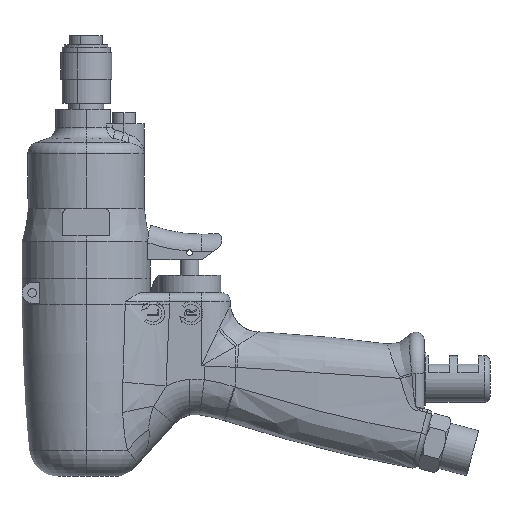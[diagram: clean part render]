
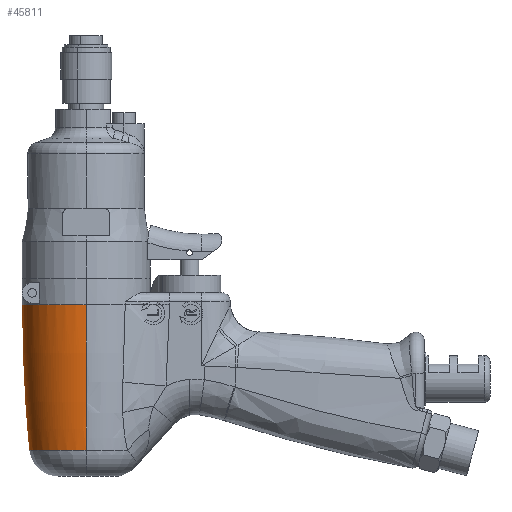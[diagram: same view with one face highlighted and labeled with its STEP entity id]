
A CAD part, left-side view. The second image highlights one B-rep face of the part: STEP entity #45811.
In plain terms, the highlighted toroidal (fillet/blend) face has major radius 478 mm and minor radius 500 mm.
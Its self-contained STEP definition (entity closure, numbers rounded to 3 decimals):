
#21764 = DIRECTION ( 'NONE',  ( 1., 0., 0. ) ) ;
#21765 = DIRECTION ( 'NONE',  ( 0., 0., 1. ) ) ;
#21766 = CARTESIAN_POINT ( 'NONE',  ( 0., 0., -59. ) ) ;
#21767 = AXIS2_PLACEMENT_3D ( 'NONE', #21766, #21765, #21764 ) ;
#21772 = CIRCLE ( 'NONE', #21767, 19.494 ) ;
#21814 = CARTESIAN_POINT ( 'NONE',  ( -19.494, 0., -59. ) ) ;
#21815 = CARTESIAN_POINT ( 'NONE',  ( 19.494, 0., -59. ) ) ;
#21836 = CARTESIAN_POINT ( 'NONE',  ( 19.267, 10.621, -9. ) ) ;
#22003 = CARTESIAN_POINT ( 'NONE',  ( -22., 0., -9. ) ) ;
#22016 = DIRECTION ( 'NONE',  ( 1., 0., 0. ) ) ;
#22028 = CARTESIAN_POINT ( 'NONE',  ( 0., 0., -9. ) ) ;
#22029 = AXIS2_PLACEMENT_3D ( 'NONE', #22028, #22031, #22016 ) ;
#22030 = CIRCLE ( 'NONE', #22029, 22. ) ;
#22031 = DIRECTION ( 'NONE',  ( 0., 0., 1. ) ) ;
#22278 = DIRECTION ( 'NONE',  ( 1., 0., 0. ) ) ;
#22279 = DIRECTION ( 'NONE',  ( 0., 0., 1. ) ) ;
#22280 = AXIS2_PLACEMENT_3D ( 'NONE', #22282, #22279, #22278 ) ;
#22281 = TOROIDAL_SURFACE ( 'NONE', #22280, -478., 500. ) ;
#22282 = CARTESIAN_POINT ( 'NONE',  ( 0., 0., -9. ) ) ;
#22283 = FACE_OUTER_BOUND ( 'NONE', #45799, .T. ) ;
#22284 = CARTESIAN_POINT ( 'NONE',  ( 17.148, 11.305, -47.194 ) ) ;
#22285 = CARTESIAN_POINT ( 'NONE',  ( 18.759, 6.871, -53.921 ) ) ;
#22286 = CARTESIAN_POINT ( 'NONE',  ( 18.645, 7.209, -53.818 ) ) ;
#22287 = CARTESIAN_POINT ( 'NONE',  ( 18.529, 7.535, -53.679 ) ) ;
#22288 = CARTESIAN_POINT ( 'NONE',  ( 18.3, 8.149, -53.348 ) ) ;
#22289 = CARTESIAN_POINT ( 'NONE',  ( 18.187, 8.437, -53.154 ) ) ;
#22290 = CARTESIAN_POINT ( 'NONE',  ( 17.968, 8.981, -52.716 ) ) ;
#22291 = CARTESIAN_POINT ( 'NONE',  ( 17.861, 9.239, -52.469 ) ) ;
#22292 = CARTESIAN_POINT ( 'NONE',  ( 17.663, 9.707, -51.938 ) ) ;
#22293 = CARTESIAN_POINT ( 'NONE',  ( 17.572, 9.92, -51.654 ) ) ;
#22294 = CARTESIAN_POINT ( 'NONE',  ( 17.409, 10.305, -51.049 ) ) ;
#22295 = CARTESIAN_POINT ( 'NONE',  ( 17.337, 10.477, -50.727 ) ) ;
#22296 = CARTESIAN_POINT ( 'NONE',  ( 17.22, 10.771, -50.065 ) ) ;
#22297 = CARTESIAN_POINT ( 'NONE',  ( 17.175, 10.895, -49.723 ) ) ;
#22298 = CARTESIAN_POINT ( 'NONE',  ( 17.114, 11.096, -49.016 ) ) ;
#22299 = CARTESIAN_POINT ( 'NONE',  ( 17.099, 11.173, -48.654 ) ) ;
#22300 = CARTESIAN_POINT ( 'NONE',  ( 17.1, 11.275, -47.929 ) ) ;
#22301 = CARTESIAN_POINT ( 'NONE',  ( 17.116, 11.302, -47.563 ) ) ;
#22303 = CARTESIAN_POINT ( 'NONE',  ( 17.148, 11.305, -47.194 ) ) ;
#22304 = CARTESIAN_POINT ( 'NONE',  ( 18.759, 6.871, -53.921 ) ) ;
#22305 = CARTESIAN_POINT ( 'NONE',  ( 18.788, 11.422, -12.472 ) ) ;
#22306 = B_SPLINE_CURVE_WITH_KNOTS ( 'NONE', 3,
 ( #22303, #22301, #22300, #22299, #22298, #22297, #22296, #22295, #22294, #22293, #22292, #22291, #22290, #22289, #22288, #22287, #22286, #22285 ),
 .UNSPECIFIED., .F., .F.,
 ( 4, 2, 2, 2, 2, 2, 2, 2, 4 ),
 ( 0., 0.001, 0.002, 0.003, 0.004, 0.005, 0.007, 0.008, 0.009 ),
 .UNSPECIFIED. ) ;
#22311 = CARTESIAN_POINT ( 'NONE',  ( 18.788, 11.422, -12.472 ) ) ;
#22312 = CARTESIAN_POINT ( 'NONE',  ( 18.792, 11.422, -12.042 ) ) ;
#22313 = CARTESIAN_POINT ( 'NONE',  ( 18.815, 11.389, -11.618 ) ) ;
#22314 = CARTESIAN_POINT ( 'NONE',  ( 18.899, 11.256, -10.779 ) ) ;
#22315 = CARTESIAN_POINT ( 'NONE',  ( 18.961, 11.155, -10.364 ) ) ;
#22316 = CARTESIAN_POINT ( 'NONE',  ( 19.038, 11.023, -9.963 ) ) ;
#22317 = CIRCLE ( 'NONE', #22356, 500. ) ;
#22318 = B_SPLINE_CURVE_WITH_KNOTS ( 'NONE', 3,
 ( #22360, #22359, #22358, #22357 ),
 .UNSPECIFIED., .F., .F.,
 ( 4, 4 ),
 ( 0.007, 0.008 ),
 .UNSPECIFIED. ) ;
#22319 = B_SPLINE_CURVE_WITH_KNOTS ( 'NONE', 3,
 ( #22316, #22315, #22314, #22313, #22312, #22311 ),
 .UNSPECIFIED., .F., .F.,
 ( 4, 2, 4 ),
 ( 0., 0.001, 0.003 ),
 .UNSPECIFIED. ) ;
#22320 = CARTESIAN_POINT ( 'NONE',  ( 17.148, 11.305, -47.194 ) ) ;
#22321 = CARTESIAN_POINT ( 'NONE',  ( 17.653, 11.343, -41.42 ) ) ;
#22322 = CARTESIAN_POINT ( 'NONE',  ( 18.04, 11.37, -35.639 ) ) ;
#22323 = CARTESIAN_POINT ( 'NONE',  ( 18.585, 11.408, -24.064 ) ) ;
#22324 = CARTESIAN_POINT ( 'NONE',  ( 18.743, 11.419, -18.269 ) ) ;
#22325 = CARTESIAN_POINT ( 'NONE',  ( 18.788, 11.422, -12.472 ) ) ;
#22326 = CARTESIAN_POINT ( 'NONE',  ( 19.038, 11.023, -9.963 ) ) ;
#22327 = B_SPLINE_CURVE_WITH_KNOTS ( 'NONE', 3,
 ( #22325, #22324, #22323, #22322, #22321, #22320 ),
 .UNSPECIFIED., .F., .F.,
 ( 4, 2, 4 ),
 ( 0., 0.017, 0.035 ),
 .UNSPECIFIED. ) ;
#22333 = B_SPLINE_CURVE_WITH_KNOTS ( 'NONE', 3,
 ( #22385, #22384, #22383, #22382, #22381, #22380 ),
 .UNSPECIFIED., .F., .F.,
 ( 4, 2, 4 ),
 ( 0., 0.003, 0.005 ),
 .UNSPECIFIED. ) ;
#22339 = CARTESIAN_POINT ( 'NONE',  ( 19.212, 5.419, -54.102 ) ) ;
#22340 = CARTESIAN_POINT ( 'NONE',  ( 19.983, 0., -53.862 ) ) ;
#22348 = DIRECTION ( 'NONE',  ( 0., 0., -1. ) ) ;
#22349 = DIRECTION ( 'NONE',  ( 0., -1., 0. ) ) ;
#22350 = CARTESIAN_POINT ( 'NONE',  ( -478., 0., -9. ) ) ;
#22351 = AXIS2_PLACEMENT_3D ( 'NONE', #22350, #22349, #22348 ) ;
#22352 = CIRCLE ( 'NONE', #22351, 500. ) ;
#22354 = DIRECTION ( 'NONE',  ( -1., 0., 0. ) ) ;
#22355 = DIRECTION ( 'NONE',  ( 0., 1., 0. ) ) ;
#22356 = AXIS2_PLACEMENT_3D ( 'NONE', #22361, #22355, #22354 ) ;
#22357 = CARTESIAN_POINT ( 'NONE',  ( 19.038, 11.023, -9.963 ) ) ;
#22358 = CARTESIAN_POINT ( 'NONE',  ( 19.103, 10.912, -9.628 ) ) ;
#22359 = CARTESIAN_POINT ( 'NONE',  ( 19.179, 10.779, -9.307 ) ) ;
#22360 = CARTESIAN_POINT ( 'NONE',  ( 19.267, 10.621, -9. ) ) ;
#22361 = CARTESIAN_POINT ( 'NONE',  ( 478., 0., -9. ) ) ;
#22380 = CARTESIAN_POINT ( 'NONE',  ( 19.983, 0., -53.862 ) ) ;
#22381 = CARTESIAN_POINT ( 'NONE',  ( 19.983, 0.923, -53.862 ) ) ;
#22382 = CARTESIAN_POINT ( 'NONE',  ( 19.917, 1.835, -53.896 ) ) ;
#22383 = CARTESIAN_POINT ( 'NONE',  ( 19.658, 3.64, -53.995 ) ) ;
#22384 = CARTESIAN_POINT ( 'NONE',  ( 19.466, 4.533, -54.06 ) ) ;
#22385 = CARTESIAN_POINT ( 'NONE',  ( 19.212, 5.419, -54.102 ) ) ;
#22402 = CARTESIAN_POINT ( 'NONE',  ( 19.212, 5.419, -54.102 ) ) ;
#22403 = CARTESIAN_POINT ( 'NONE',  ( 19.07, 5.916, -54.125 ) ) ;
#22404 = CARTESIAN_POINT ( 'NONE',  ( 18.918, 6.4, -54.064 ) ) ;
#22405 = CARTESIAN_POINT ( 'NONE',  ( 18.759, 6.871, -53.921 ) ) ;
#22407 = B_SPLINE_CURVE_WITH_KNOTS ( 'NONE', 3,
 ( #22405, #22404, #22403, #22402 ),
 .UNSPECIFIED., .F., .F.,
 ( 4, 4 ),
 ( 0., 0.002 ),
 .UNSPECIFIED. ) ;
#45661 = EDGE_CURVE ( 'NONE', #45668, #45669, #21772, .T. ) ;
#45668 = VERTEX_POINT ( 'NONE', #21815 ) ;
#45669 = VERTEX_POINT ( 'NONE', #21814 ) ;
#45692 = VERTEX_POINT ( 'NONE', #21836 ) ;
#45730 = VERTEX_POINT ( 'NONE', #22003 ) ;
#45740 = EDGE_CURVE ( 'NONE', #45692, #45730, #22030, .T. ) ;
#45799 = EDGE_LOOP ( 'NONE', ( #45800, #45838, #45840, #45842, #45837, #45828, #45830, #45867, #45843, #45846 ) ) ;
#45800 = ORIENTED_EDGE ( 'NONE', *, *, #45661, .T. ) ;
#45811 = ADVANCED_FACE ( 'NONE', ( #22283 ), #22281, .T. ) ;
#45826 = EDGE_CURVE ( 'NONE', #45832, #45831, #22306, .T. ) ;
#45827 = VERTEX_POINT ( 'NONE', #22305 ) ;
#45828 = ORIENTED_EDGE ( 'NONE', *, *, #45834, .T. ) ;
#45830 = ORIENTED_EDGE ( 'NONE', *, *, #45826, .T. ) ;
#45831 = VERTEX_POINT ( 'NONE', #22304 ) ;
#45832 = VERTEX_POINT ( 'NONE', #22284 ) ;
#45834 = EDGE_CURVE ( 'NONE', #45827, #45832, #22327, .T. ) ;
#45835 = VERTEX_POINT ( 'NONE', #22326 ) ;
#45836 = EDGE_CURVE ( 'NONE', #45835, #45827, #22319, .T. ) ;
#45837 = ORIENTED_EDGE ( 'NONE', *, *, #45836, .T. ) ;
#45838 = ORIENTED_EDGE ( 'NONE', *, *, #45841, .T. ) ;
#45839 = EDGE_CURVE ( 'NONE', #45692, #45835, #22318, .T. ) ;
#45840 = ORIENTED_EDGE ( 'NONE', *, *, #45740, .F. ) ;
#45841 = EDGE_CURVE ( 'NONE', #45669, #45730, #22317, .T. ) ;
#45842 = ORIENTED_EDGE ( 'NONE', *, *, #45839, .T. ) ;
#45843 = ORIENTED_EDGE ( 'NONE', *, *, #45854, .T. ) ;
#45845 = EDGE_CURVE ( 'NONE', #45668, #45850, #22352, .T. ) ;
#45846 = ORIENTED_EDGE ( 'NONE', *, *, #45845, .F. ) ;
#45850 = VERTEX_POINT ( 'NONE', #22340 ) ;
#45851 = VERTEX_POINT ( 'NONE', #22339 ) ;
#45854 = EDGE_CURVE ( 'NONE', #45851, #45850, #22333, .T. ) ;
#45867 = ORIENTED_EDGE ( 'NONE', *, *, #45869, .T. ) ;
#45869 = EDGE_CURVE ( 'NONE', #45831, #45851, #22407, .T. ) ;
